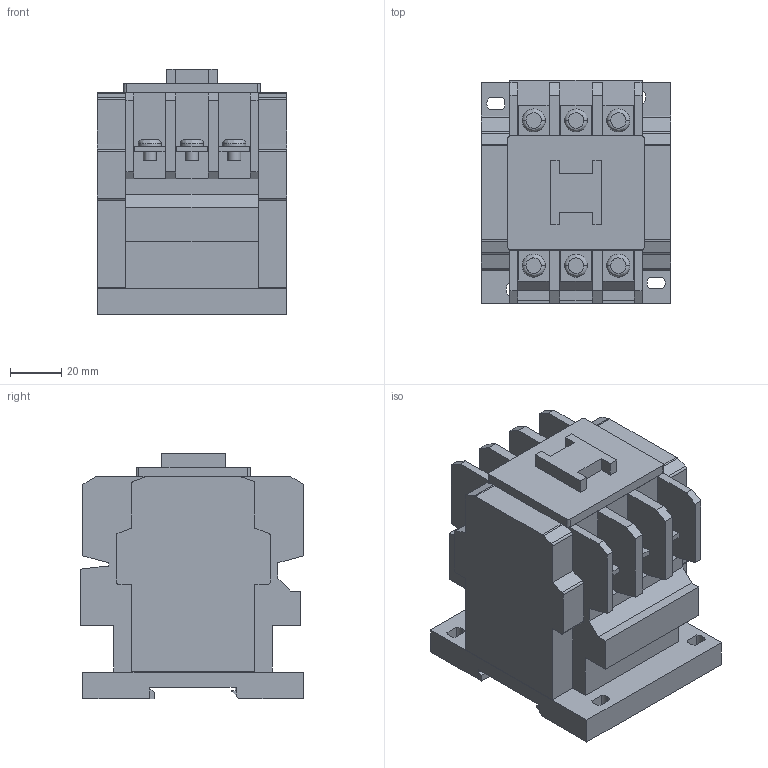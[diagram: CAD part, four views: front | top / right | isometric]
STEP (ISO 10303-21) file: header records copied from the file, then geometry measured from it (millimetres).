
FILE_DESCRIPTION (( 'STEP AP214' ), '1' );
FILE_NAME ('SC-N1.STEP', '2013-10-31T02:00:30', ( '川崎工場' ), ( '富士電機システムズ株式会社' ), 'SwSTEP 2.0', 'SolidWorks 2005204', '' );
FILE_SCHEMA (( 'AUTOMOTIVE_DESIGN' ));
Length unit declared in the file: millimetre
Products named in the file (14): 11_蹬怮椔; 2_蹬怮椔; 5_蹬怮椔; 1_蹬怮椔; 10_蹬怮椔; 6_蹬怮椔; 13_蹬怮椔; SC-N1; 4_蹬怮椔; 7_蹬怮椔; 3_蹬怮椔; 9_蹬怮椔; 8_蹬怮椔; 12_蹬怮椔
Assembly tree (13 placements, depth 2):
  SC-N1
    7_蹬怮椔
    13_蹬怮椔
    5_蹬怮椔
    2_蹬怮椔
    9_蹬怮椔
    6_蹬怮椔
    4_蹬怮椔
    8_蹬怮椔
    1_蹬怮椔
    3_蹬怮椔
    10_蹬怮椔
    12_蹬怮椔
    11_蹬怮椔
Bounding box: 74 x 87.05 x 95.9 mm (x, y, z)
Volume: 413235.5 mm3; surface area: 59172.4 mm2
Topology: 13 solids, 13 shells, 285 faces, 723 edges, 472 vertices
Faces by surface type: plane 203, cylinder 70, bspline 12
Entity records: 12040 total; most frequent: CARTESIAN_POINT 1730, ORIENTED_EDGE 1446, DIRECTION 1439, EDGE_CURVE 723, VECTOR 549, LINE 549, VERTEX_POINT 472, AXIS2_PLACEMENT_3D 445
